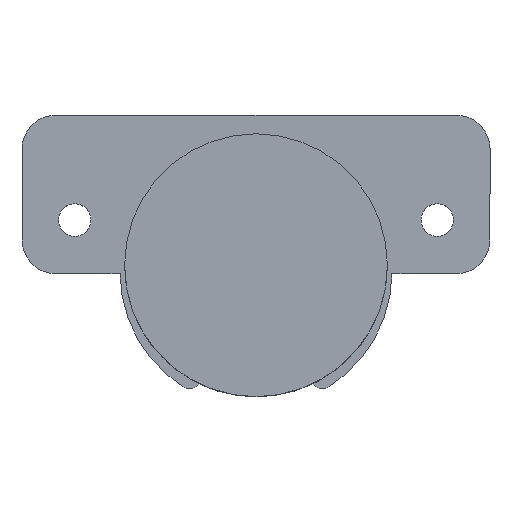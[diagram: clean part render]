
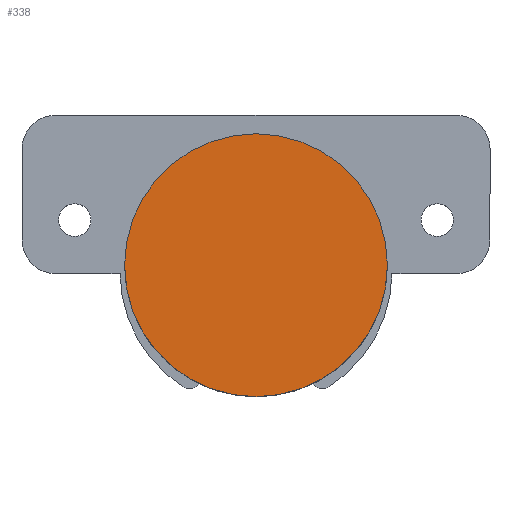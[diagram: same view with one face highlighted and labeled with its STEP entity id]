
A CAD part, top view. The second image highlights one B-rep face of the part: STEP entity #338.
In plain terms, the highlighted planar face has unit normal (0, 0, 1).
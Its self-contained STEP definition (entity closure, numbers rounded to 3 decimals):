
#111 = EDGE_CURVE ( 'NONE', #1667, #2047, #131, .T. ) ;
#131 = CIRCLE ( 'NONE', #1873, 17.4 ) ;
#259 = CARTESIAN_POINT ( 'NONE',  ( 0., 14.542, 50.494 ) ) ;
#338 = ADVANCED_FACE ( 'NONE', ( #1605 ), #1619, .F. ) ;
#571 = CARTESIAN_POINT ( 'NONE',  ( 7.7, 25.509, 50.494 ) ) ;
#646 = ORIENTED_EDGE ( 'NONE', *, *, #111, .T. ) ;
#1009 = CARTESIAN_POINT ( 'NONE',  ( -17.4, 14.542, 50.494 ) ) ;
#1031 = CARTESIAN_POINT ( 'NONE',  ( 0., 14.542, 50.494 ) ) ;
#1084 = EDGE_CURVE ( 'NONE', #2047, #1667, #1765, .T. ) ;
#1090 = EDGE_LOOP ( 'NONE', ( #1908, #646 ) ) ;
#1102 = DIRECTION ( 'NONE',  ( -1., 0., 0. ) ) ;
#1232 = DIRECTION ( 'NONE',  ( 0., 0., 1. ) ) ;
#1437 = AXIS2_PLACEMENT_3D ( 'NONE', #259, #1515, #1682 ) ;
#1515 = DIRECTION ( 'NONE',  ( 0., 0., 1. ) ) ;
#1605 = FACE_OUTER_BOUND ( 'NONE', #1090, .T. ) ;
#1619 = PLANE ( 'NONE',  #2100 ) ;
#1667 = VERTEX_POINT ( 'NONE', #1760 ) ;
#1682 = DIRECTION ( 'NONE',  ( 1., 0., 0. ) ) ;
#1760 = CARTESIAN_POINT ( 'NONE',  ( 17.4, 14.542, 50.494 ) ) ;
#1765 = CIRCLE ( 'NONE', #1437, 17.4 ) ;
#1873 = AXIS2_PLACEMENT_3D ( 'NONE', #1031, #1232, #2063 ) ;
#1908 = ORIENTED_EDGE ( 'NONE', *, *, #1084, .T. ) ;
#1980 = DIRECTION ( 'NONE',  ( 0., 0., -1. ) ) ;
#2047 = VERTEX_POINT ( 'NONE', #1009 ) ;
#2063 = DIRECTION ( 'NONE',  ( 1., 0., 0. ) ) ;
#2100 = AXIS2_PLACEMENT_3D ( 'NONE', #571, #1980, #1102 ) ;
